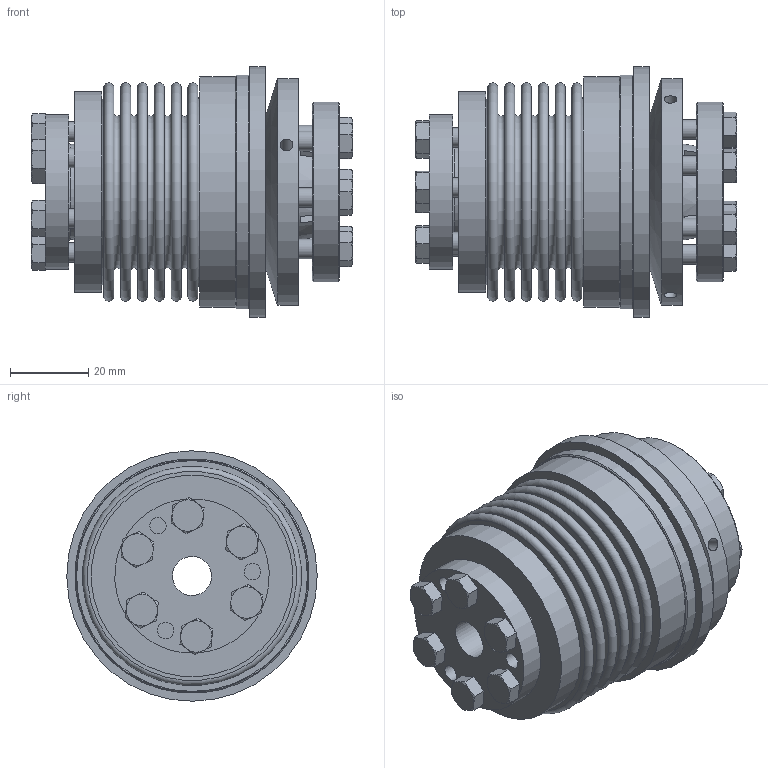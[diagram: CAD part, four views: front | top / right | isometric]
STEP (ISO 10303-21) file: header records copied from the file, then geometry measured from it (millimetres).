
FILE_DESCRIPTION( ( 'Unknown' ), '1' );
FILE_NAME( 'K:/Konstruktion/Korrigierte 3D Modelle/KBK-B-IA/KBK-BIA-30-83.stp', 'Unknown', ( 'Unknown' ), ( 'Unknown' ), 'PSStep 16.0.42', 'Unknown', ' ' );
FILE_SCHEMA( ( 'AUTOMOTIVE_DESIGN { 1 0 10303 214 1 1 1 1 }' ) );
Length unit declared in the file: millimetre
Products named in the file (18): Stellring 30_0; din_en_24017_m5x16_0; Druckring 30_0; L-A-30 Grundkörper_0; Druckring L-A-30_0; A-30; BA5-30; Hex Screw GradeC_DIN_ISO 4018 - M5 x 20-NN_1; KB30_Standard_1; BA30_Standard_1; Assem1; BL30_Standard_0; Flansch BK30
Assembly tree (27 placements, depth 4):
  Assem1
    BL30_Standard_0
    Flansch BK30
    BA5-30
      Hex Screw GradeC_DIN_ISO 4018 - M5 x 20-NN_1  x6
      KB30_Standard_1
      BA30_Standard_1
    A-30
      Stellring 30_0
        Stellring 30_0
      Druckring 30_0
        Druckring 30_0
      L-A-30 Grundkörper_0
        L-A-30 Grundkörper_0
      din_en_24017_m5x16_0  x6
        din_en_24017_m5x16_0
      Druckring L-A-30_0
        Druckring L-A-30_0
Bounding box: 82.05 x 64 x 64 mm (x, y, z)
Volume: 109277.3 mm3; surface area: 86628.3 mm2
Topology: 20 solids, 20 shells, 403 faces, 833 edges, 529 vertices
Faces by surface type: plane 189, cone 107, cylinder 73, torus 34
Full cylindrical faces by diameter (mm): 3.242 x3, 4.134 x6, 4.2 x9, 5 x12, 5.5 x12, 6.88 x6, 10 x1, 12 x1, 23.9 x1, 24.4 x1, 24.7 x1, 25 x2, 34 x1, 37 x2, 38 x2, 39.5 x1, 40 x1, 46 x1, 46.5 x2, 47.3 x2, 51.5 x1, 52 x1, 58 x1, 59 x1, 60 x1, 64 x1
Entity records: 7448 total; most frequent: CARTESIAN_POINT 1195, DIRECTION 984, ORIENTED_EDGE 606, AXIS2_PLACEMENT_3D 468, EDGE_LOOP 416, EDGE_CURVE 303, FACE_OUTER_BOUND 295, VERTEX_POINT 271
